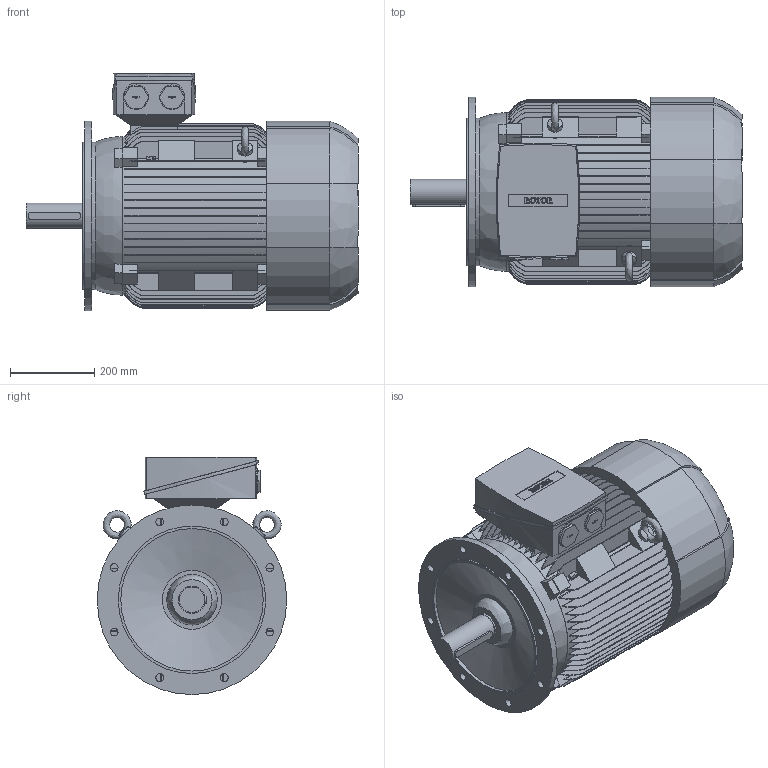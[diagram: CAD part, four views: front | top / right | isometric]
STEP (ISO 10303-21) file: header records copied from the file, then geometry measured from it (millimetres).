
FILE_DESCRIPTION (( 'STEP AP214' ), '1' );
FILE_NAME ('6RN225M04E12 IM3001.STEP', '2016-02-12T12:46:07', ( 'rotor' ), ( 'Hewlett-Packard Company' ), 'SwSTEP 2.0', 'SolidWorks 2012', '' );
FILE_SCHEMA (( 'AUTOMOTIVE_DESIGN' ));
Length unit declared in the file: millimetre
Products named in the file (1): 6RN225M04E12 IM3001
Bounding box: 788 x 450 x 563 mm (x, y, z)
Volume: 87331997.5 mm3; surface area: 2713627.7 mm2
Topology: 1 solids, 1 shells, 774 faces, 2240 edges, 1487 vertices
Faces by surface type: plane 437, bspline 204, cylinder 128, cone 5
Full cylindrical faces by diameter (mm): 5 x1, 16 x2, 18.5 x8, 35 x2, 58 x2, 60 x1, 65 x1, 338 x1, 350 x2, 450 x1
Entity records: 42153 total; most frequent: CARTESIAN_POINT 16183, ORIENTED_EDGE 4406, DIRECTION 3124, EDGE_CURVE 2203, VERTEX_POINT 1476, VECTOR 1242, LINE 1242, AXIS2_PLACEMENT_3D 941
